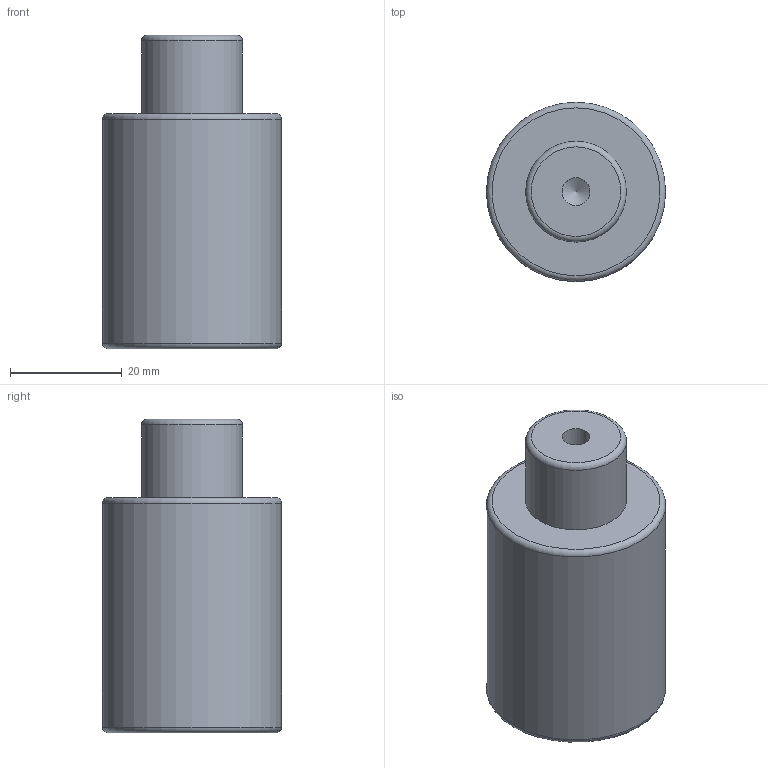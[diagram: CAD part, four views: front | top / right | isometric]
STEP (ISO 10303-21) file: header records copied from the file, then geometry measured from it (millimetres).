
FILE_DESCRIPTION(/* description */ (''),/* implementation_level */ '2;1');
FILE_NAME(/* name */ 'NV5-SMLX.32x13.stp',/* time_stamp */ '2018-08-31T16:08:37+02:00',/* author */ (''),/* organization */ (''),/* preprocessor_version */ 'ST-DEVELOPER v16',/* originating_system */ 'SIEMENS PLM Software NX 10.0',/* authorisation */ '');
FILE_SCHEMA (('AUTOMOTIVE_DESIGN { 1 0 10303 214 3 1 1 1 }'));
Length unit declared in the file: millimetre
Products named in the file (1): NV5-SMLX.32x13
Bounding box: 32 x 32 x 56 mm (x, y, z)
Volume: 36835 mm3; surface area: 6862.7 mm2
Topology: 1 solids, 1 shells, 12 faces, 24 edges, 15 vertices
Faces by surface type: cylinder 4, torus 3, plane 3, cone 2
Full cylindrical faces by diameter (mm): 5 x2, 18 x1, 32 x1
Entity records: 266 total; most frequent: DIRECTION 48, CARTESIAN_POINT 37, FACE_BOUND 24, AXIS2_PLACEMENT_3D 24, EDGE_LOOP 22, ORIENTED_EDGE 22, VERTEX_POINT 13, ADVANCED_FACE 12
